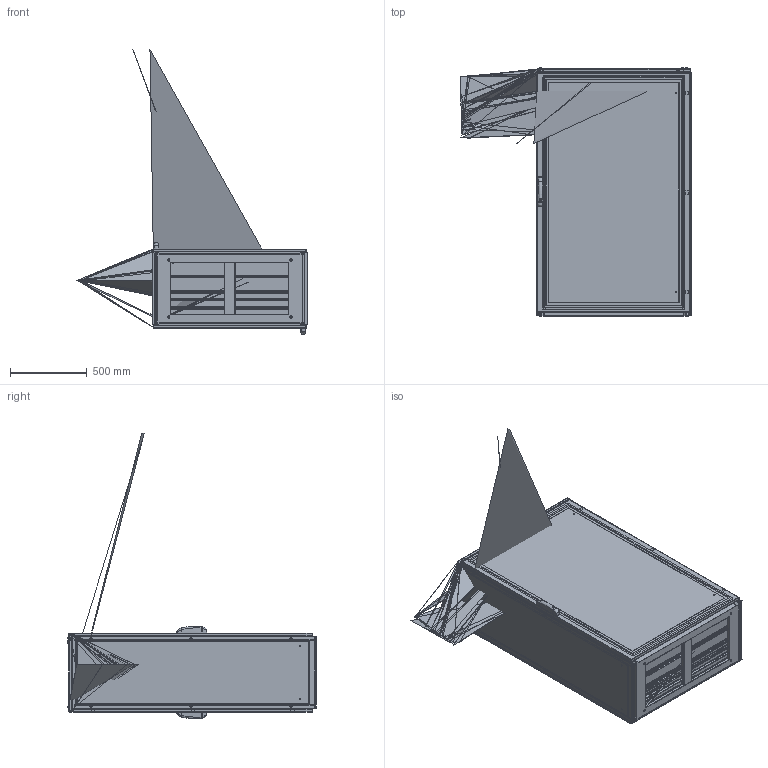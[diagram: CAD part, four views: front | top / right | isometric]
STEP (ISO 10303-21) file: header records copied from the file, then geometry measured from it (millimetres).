
FILE_DESCRIPTION (( 'STEP AP203' ), '1' );
FILE_NAME ('ENUX101605DP.STEP', '2025-05-29T12:07:20', ( '' ), ( '' ), 'SwSTEP 2.0', 'SolidWorks 2022', '' );
FILE_SCHEMA (( 'CONFIG_CONTROL_DESIGN' ));
Length unit declared in the file: millimetre
Products named in the file (13): AR_ENUX_Vite_tetto; AR_ENUX_Tetto_1000x0500; AR_ENUX_montaggio_porta_singlola_2.0_1000x1600_ANT_DX; AR_ENUX_Fianco_0500x1600_DX; AR_ENUX_Porta_singola_2.0_1000x1600_POST; AR_ENUX_Struttura_1000x1600x0500; AR_ENUX_Tegolino_1000x0050; AR_ENUX_Porta_singola_2.0_1000x1600_ANT; AR_ENUX_montaggio_porta_singlola_2.0_1000x1600_POST_DX; AR_ENUX_nuova_maniglia_mesan; AR_ENUX_Fianco_0500x1600_SX; ENUX101605DP; AR_ENUX_Tegolino_1000x0100
Assembly tree (22 placements, depth 3):
  ENUX101605DP
    AR_ENUX_Struttura_1000x1600x0500
    AR_ENUX_montaggio_porta_singlola_2.0_1000x1600_ANT_DX
      AR_ENUX_Porta_singola_2.0_1000x1600_ANT
      AR_ENUX_nuova_maniglia_mesan
    AR_ENUX_montaggio_porta_singlola_2.0_1000x1600_POST_DX
      AR_ENUX_Porta_singola_2.0_1000x1600_POST
      AR_ENUX_nuova_maniglia_mesan
    AR_ENUX_Fianco_0500x1600_SX
    AR_ENUX_Fianco_0500x1600_DX
    AR_ENUX_Tetto_1000x0500
    AR_ENUX_Vite_tetto  x4
    AR_ENUX_Tegolino_1000x0050  x4
    AR_ENUX_Tegolino_1000x0100  x4
Bounding box: 1504 x 1615.1 x 1855.7 mm (x, y, z)
Volume: 58483010.5 mm3; surface area: 19165981.8 mm2
Topology: 20 solids, 21 shells, 9146 faces, 25467 edges, 16605 vertices
Faces by surface type: plane 4869, cylinder 3454, bspline 390, torus 229, cone 140, sphere 64
Entity records: 326592 total; most frequent: CARTESIAN_POINT 90369, ORIENTED_EDGE 48872, DIRECTION 46887, EDGE_CURVE 24436, VECTOR 16505, LINE 16505, VERTEX_POINT 15898, AXIS2_PLACEMENT_3D 15191
